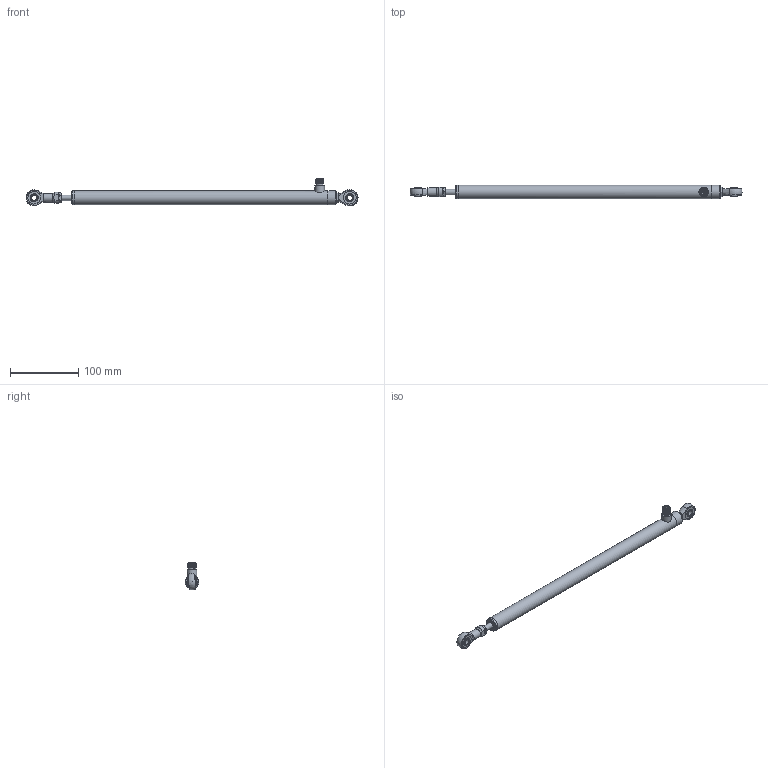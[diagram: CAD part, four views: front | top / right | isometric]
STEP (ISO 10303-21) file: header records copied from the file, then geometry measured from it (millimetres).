
FILE_DESCRIPTION( ( 'STEP AP214' ), '1' );
FILE_NAME( 'N:/Engineering/CAD_Solid/LVDT/SL/Kunden-3D-Modell/SL150-G-SR.stp', '2011-12-12T15:04:11', ( ' ' ), ( ' ' ), 'XStep 1.0', ' ', ' ' );
FILE_SCHEMA( ( 'CONFIG_CONTROL_DESIGN) ( )' ) );
Length unit declared in the file: metre
Products named in the file (9): 1; 2; 3; 4; 5; 6; 7; 8; 9
Bounding box: 486 x 20 x 40.99 mm (x, y, z)
Volume: 1908.6 mm3; surface area: 34301.9 mm2
Topology: 2 solids, 93 shells, 105 faces, 449 edges, 407 vertices
Faces by surface type: plane 44, cylinder 28, cone 24, sphere 4, bspline 4, torus 1
Full cylindrical faces by diameter (mm): 2 x4, 8 x3, 10.5 x1, 12.5 x1, 14 x1, 20 x3
Entity records: 9719 total; most frequent: CARTESIAN_POINT 5643, DIRECTION 675, ORIENTED_EDGE 389, EDGE_CURVE 377, VERTEX_POINT 377, AXIS2_PLACEMENT_3D 286, CIRCLE 174, EDGE_LOOP 162
